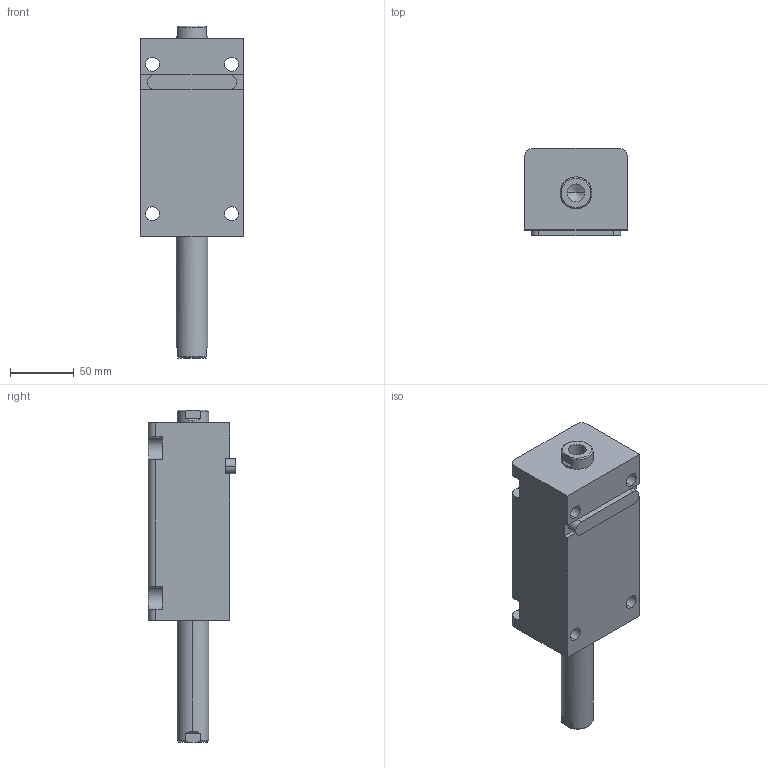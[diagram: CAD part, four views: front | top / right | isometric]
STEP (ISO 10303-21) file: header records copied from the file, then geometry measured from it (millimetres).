
FILE_DESCRIPTION (( 'STEP AP203' ), '1' );
FILE_NAME ('HTB-LW40-85N.STEP', '2019-10-09T07:58:46', ( '微软用户' ), ( '微软中国' ), 'SwSTEP 2.0', 'SolidWorks 2012', '' );
FILE_SCHEMA (( 'CONFIG_CONTROL_DESIGN' ));
Length unit declared in the file: millimetre
Products named in the file (4): HTB-LW40-85N; HTB-LA40-瑩; HTB-LW40-85N活塞杆; HTB-LW40-85掛极
Assembly tree (3 placements, depth 2):
  HTB-LW40-85N
    HTB-LW40-85掛极
    HTB-LW40-85N活塞杆
    HTB-LA40-瑩
Bounding box: 80 x 68.5 x 260 mm (x, y, z)
Volume: 738625.3 mm3; surface area: 109073.4 mm2
Topology: 3 solids, 3 shells, 105 faces, 261 edges, 168 vertices
Faces by surface type: plane 44, cylinder 41, cone 12, torus 8
Entity records: 3567 total; most frequent: CARTESIAN_POINT 588, DIRECTION 573, ORIENTED_EDGE 514, EDGE_CURVE 257, AXIS2_PLACEMENT_3D 221, VERTEX_POINT 168, VECTOR 131, LINE 131
